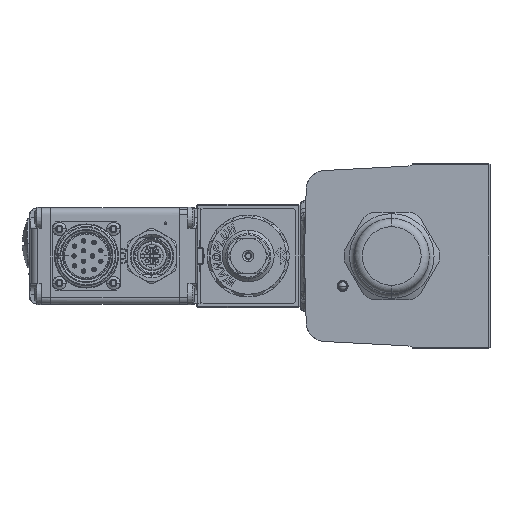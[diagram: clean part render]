
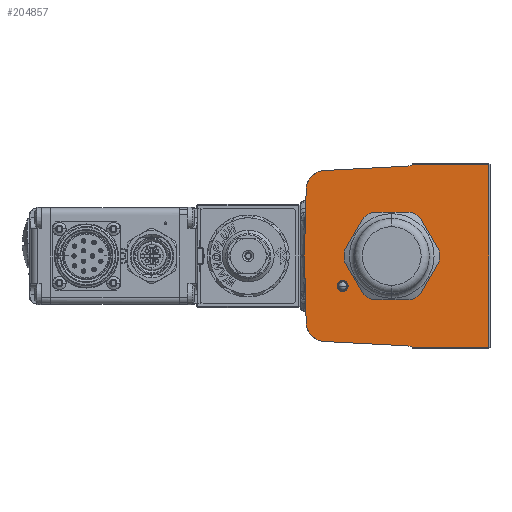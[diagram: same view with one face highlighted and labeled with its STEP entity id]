
A CAD part, left-side view. The second image highlights one B-rep face of the part: STEP entity #204857.
In plain terms, the highlighted planar face has unit normal (-1, 0, 0).
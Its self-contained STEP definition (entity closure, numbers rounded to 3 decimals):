
#920 = CARTESIAN_POINT ( 'NONE',  ( -46.6, -36., 33.5 ) ) ;
#3771 = EDGE_CURVE ( 'NONE', #241110, #25645, #243215, .T. ) ;
#15327 = DIRECTION ( 'NONE',  ( -1., 0., 0. ) ) ;
#15949 = LINE ( 'NONE', #82025, #205492 ) ;
#15950 = ORIENTED_EDGE ( 'NONE', *, *, #60151, .T. ) ;
#16456 = DIRECTION ( 'NONE',  ( 1., 0., 0. ) ) ;
#19468 = EDGE_CURVE ( 'NONE', #93158, #257988, #137167, .T. ) ;
#25645 = VERTEX_POINT ( 'NONE', #64846 ) ;
#27793 = EDGE_LOOP ( 'NONE', ( #101131, #297829 ) ) ;
#27955 = AXIS2_PLACEMENT_3D ( 'NONE', #210192, #67921, #234041 ) ;
#31849 = VECTOR ( 'NONE', #247483, 1000. ) ;
#33112 = DIRECTION ( 'NONE',  ( 0., -0.026, 1. ) ) ;
#39575 = CARTESIAN_POINT ( 'NONE',  ( -46.6, -35.5, -33.5 ) ) ;
#39941 = DIRECTION ( 'NONE',  ( 0., 0., 1. ) ) ;
#41017 = ORIENTED_EDGE ( 'NONE', *, *, #160914, .T. ) ;
#42352 = CIRCLE ( 'NONE', #182578, 7. ) ;
#43260 = VERTEX_POINT ( 'NONE', #294564 ) ;
#44833 = EDGE_CURVE ( 'NONE', #257988, #93158, #156019, .T. ) ;
#47888 = VERTEX_POINT ( 'NONE', #133490 ) ;
#55408 = VECTOR ( 'NONE', #285320, 1000. ) ;
#56462 = CARTESIAN_POINT ( 'NONE',  ( -46.6, 32., 0. ) ) ;
#57935 = CARTESIAN_POINT ( 'NONE',  ( -46.6, 18., -11. ) ) ;
#58994 = DIRECTION ( 'NONE',  ( -1., 0., 0. ) ) ;
#60151 = EDGE_CURVE ( 'NONE', #150413, #201062, #67443, .T. ) ;
#64846 = CARTESIAN_POINT ( 'NONE',  ( -46.6, -35.5, 33.5 ) ) ;
#67443 = CIRCLE ( 'NONE', #68752, 3. ) ;
#67614 = VERTEX_POINT ( 'NONE', #93246 ) ;
#67921 = DIRECTION ( 'NONE',  ( -1., 0., 0. ) ) ;
#68752 = AXIS2_PLACEMENT_3D ( 'NONE', #85104, #251087, #108959 ) ;
#68922 = AXIS2_PLACEMENT_3D ( 'NONE', #158795, #16456, #182708 ) ;
#71772 = CIRCLE ( 'NONE', #202662, 2. ) ;
#72656 = EDGE_CURVE ( 'NONE', #67614, #287305, #139380, .T. ) ;
#76760 = FACE_OUTER_BOUND ( 'NONE', #128044, .T. ) ;
#78422 = CARTESIAN_POINT ( 'NONE',  ( -46.6, 24.36, -24.347 ) ) ;
#78967 = DIRECTION ( 'NONE',  ( -1., 0., 0. ) ) ;
#80365 = ORIENTED_EDGE ( 'NONE', *, *, #204505, .T. ) ;
#81838 = DIRECTION ( 'NONE',  ( 0., 0., 1. ) ) ;
#82025 = CARTESIAN_POINT ( 'NONE',  ( -46.6, 1.706, 32.544 ) ) ;
#82502 = ORIENTED_EDGE ( 'NONE', *, *, #128700, .F. ) ;
#83306 = CARTESIAN_POINT ( 'NONE',  ( -46.6, 31.978, -0.837 ) ) ;
#84263 = CARTESIAN_POINT ( 'NONE',  ( -46.6, -7.444, 33.5 ) ) ;
#85104 = CARTESIAN_POINT ( 'NONE',  ( -46.6, -5.693, 35.936 ) ) ;
#90236 = ORIENTED_EDGE ( 'NONE', *, *, #213697, .T. ) ;
#90631 = DIRECTION ( 'NONE',  ( 0., -1., 0. ) ) ;
#93158 = VERTEX_POINT ( 'NONE', #119374 ) ;
#93246 = CARTESIAN_POINT ( 'NONE',  ( -46.6, -5.85, -32.94 ) ) ;
#93985 = EDGE_LOOP ( 'NONE', ( #306323, #82502 ) ) ;
#94695 = CARTESIAN_POINT ( 'NONE',  ( -46.6, 18., -13. ) ) ;
#94916 = VERTEX_POINT ( 'NONE', #294531 ) ;
#101131 = ORIENTED_EDGE ( 'NONE', *, *, #44833, .F. ) ;
#102027 = VECTOR ( 'NONE', #39941, 1000. ) ;
#102312 = DIRECTION ( 'NONE',  ( 0., 0., 1. ) ) ;
#104035 = CARTESIAN_POINT ( 'NONE',  ( -46.6, 24.726, -31.337 ) ) ;
#104878 = DIRECTION ( 'NONE',  ( -1., 0., 0. ) ) ;
#105363 = CARTESIAN_POINT ( 'NONE',  ( -46.6, 1.706, -32.544 ) ) ;
#108959 = DIRECTION ( 'NONE',  ( 0., 0., 1. ) ) ;
#109634 = EDGE_CURVE ( 'NONE', #47888, #201062, #15949, .T. ) ;
#110830 = VECTOR ( 'NONE', #225412, 1000. ) ;
#112918 = VERTEX_POINT ( 'NONE', #104035 ) ;
#113281 = EDGE_CURVE ( 'NONE', #25645, #150413, #181831, .T. ) ;
#114525 = EDGE_CURVE ( 'NONE', #287250, #187478, #181460, .T. ) ;
#118466 = AXIS2_PLACEMENT_3D ( 'NONE', #247034, #104878, #270861 ) ;
#119015 = LINE ( 'NONE', #199312, #167230 ) ;
#119374 = CARTESIAN_POINT ( 'NONE',  ( -46.6, 16., 0. ) ) ;
#128044 = EDGE_LOOP ( 'NONE', ( #259748, #80365, #263508, #156510, #15950, #133310, #41017, #128234, #173301, #174071, #90236 ) ) ;
#128234 = ORIENTED_EDGE ( 'NONE', *, *, #288984, .F. ) ;
#128700 = EDGE_CURVE ( 'NONE', #245021, #94916, #138350, .T. ) ;
#128755 = DIRECTION ( 'NONE',  ( 0., -0.999, 0.052 ) ) ;
#132505 = FACE_BOUND ( 'NONE', #93985, .T. ) ;
#133310 = ORIENTED_EDGE ( 'NONE', *, *, #109634, .F. ) ;
#133490 = CARTESIAN_POINT ( 'NONE',  ( -46.6, 24.726, 31.337 ) ) ;
#137167 = CIRCLE ( 'NONE', #180321, 16. ) ;
#137870 = EDGE_CURVE ( 'NONE', #94916, #245021, #71772, .T. ) ;
#138350 = CIRCLE ( 'NONE', #181409, 2. ) ;
#139380 = CIRCLE ( 'NONE', #68922, 3. ) ;
#140219 = CIRCLE ( 'NONE', #27955, 7. ) ;
#150086 = CARTESIAN_POINT ( 'NONE',  ( -46.6, -16., 0. ) ) ;
#150413 = VERTEX_POINT ( 'NONE', #84263 ) ;
#156019 = CIRCLE ( 'NONE', #156879, 16. ) ;
#156510 = ORIENTED_EDGE ( 'NONE', *, *, #113281, .T. ) ;
#156879 = AXIS2_PLACEMENT_3D ( 'NONE', #201226, #58994, #225022 ) ;
#157680 = CARTESIAN_POINT ( 'NONE',  ( -46.6, 18., -11. ) ) ;
#158512 = CARTESIAN_POINT ( 'NONE',  ( -46.6, -35.5, -34. ) ) ;
#158795 = CARTESIAN_POINT ( 'NONE',  ( -46.6, -5.693, -35.936 ) ) ;
#160914 = EDGE_CURVE ( 'NONE', #47888, #43260, #140219, .T. ) ;
#167230 = VECTOR ( 'NONE', #33112, 1000. ) ;
#170133 = LINE ( 'NONE', #232815, #296240 ) ;
#173301 = ORIENTED_EDGE ( 'NONE', *, *, #114525, .T. ) ;
#174071 = ORIENTED_EDGE ( 'NONE', *, *, #236318, .F. ) ;
#178994 = CARTESIAN_POINT ( 'NONE',  ( -46.6, -7.444, -33.5 ) ) ;
#180321 = AXIS2_PLACEMENT_3D ( 'NONE', #221131, #78967, #245037 ) ;
#181409 = AXIS2_PLACEMENT_3D ( 'NONE', #57935, #223965, #81838 ) ;
#181460 = LINE ( 'NONE', #83306, #110830 ) ;
#181573 = DIRECTION ( 'NONE',  ( 0., 0., 1. ) ) ;
#181831 = LINE ( 'NONE', #920, #55408 ) ;
#182578 = AXIS2_PLACEMENT_3D ( 'NONE', #78422, #244502, #102312 ) ;
#182708 = DIRECTION ( 'NONE',  ( 0., 0., 1. ) ) ;
#187478 = VERTEX_POINT ( 'NONE', #288952 ) ;
#199312 = CARTESIAN_POINT ( 'NONE',  ( -46.6, 31.978, 0.837 ) ) ;
#201062 = VERTEX_POINT ( 'NONE', #252350 ) ;
#201226 = CARTESIAN_POINT ( 'NONE',  ( -46.6, 0., 0. ) ) ;
#202662 = AXIS2_PLACEMENT_3D ( 'NONE', #157680, #15327, #181573 ) ;
#204505 = EDGE_CURVE ( 'NONE', #287305, #241110, #170133, .T. ) ;
#204857 = ADVANCED_FACE ( 'NONE', ( #132505, #76760, #258692 ), #293711, .T. ) ;
#205492 = VECTOR ( 'NONE', #128755, 1000. ) ;
#210192 = CARTESIAN_POINT ( 'NONE',  ( -46.6, 24.36, 24.347 ) ) ;
#213697 = EDGE_CURVE ( 'NONE', #112918, #67614, #276995, .T. ) ;
#221131 = CARTESIAN_POINT ( 'NONE',  ( -46.6, 0., 0. ) ) ;
#223965 = DIRECTION ( 'NONE',  ( -1., 0., 0. ) ) ;
#225022 = DIRECTION ( 'NONE',  ( 0., -1., 0. ) ) ;
#225412 = DIRECTION ( 'NONE',  ( 0., -0.026, -1. ) ) ;
#232815 = CARTESIAN_POINT ( 'NONE',  ( -46.6, -36., -33.5 ) ) ;
#234041 = DIRECTION ( 'NONE',  ( 0., 0., 1. ) ) ;
#236318 = EDGE_CURVE ( 'NONE', #112918, #187478, #42352, .T. ) ;
#241110 = VERTEX_POINT ( 'NONE', #39575 ) ;
#243215 = LINE ( 'NONE', #158512, #102027 ) ;
#244502 = DIRECTION ( 'NONE',  ( 1., 0., 0. ) ) ;
#245021 = VERTEX_POINT ( 'NONE', #94695 ) ;
#245037 = DIRECTION ( 'NONE',  ( 0., -1., 0. ) ) ;
#247034 = CARTESIAN_POINT ( 'NONE',  ( -46.6, -36., -34. ) ) ;
#247483 = DIRECTION ( 'NONE',  ( 0., -0.999, -0.052 ) ) ;
#251087 = DIRECTION ( 'NONE',  ( 1., 0., 0. ) ) ;
#252350 = CARTESIAN_POINT ( 'NONE',  ( -46.6, -5.85, 32.94 ) ) ;
#257988 = VERTEX_POINT ( 'NONE', #150086 ) ;
#258692 = FACE_BOUND ( 'NONE', #27793, .T. ) ;
#259748 = ORIENTED_EDGE ( 'NONE', *, *, #72656, .T. ) ;
#263508 = ORIENTED_EDGE ( 'NONE', *, *, #3771, .T. ) ;
#270861 = DIRECTION ( 'NONE',  ( 0., 0., 1. ) ) ;
#276995 = LINE ( 'NONE', #105363, #31849 ) ;
#285320 = DIRECTION ( 'NONE',  ( 0., 1., 0. ) ) ;
#287250 = VERTEX_POINT ( 'NONE', #56462 ) ;
#287305 = VERTEX_POINT ( 'NONE', #178994 ) ;
#288952 = CARTESIAN_POINT ( 'NONE',  ( -46.6, 31.358, -24.53 ) ) ;
#288984 = EDGE_CURVE ( 'NONE', #287250, #43260, #119015, .T. ) ;
#293711 = PLANE ( 'NONE',  #118466 ) ;
#294531 = CARTESIAN_POINT ( 'NONE',  ( -46.6, 18., -9. ) ) ;
#294564 = CARTESIAN_POINT ( 'NONE',  ( -46.6, 31.358, 24.53 ) ) ;
#296240 = VECTOR ( 'NONE', #90631, 1000. ) ;
#297829 = ORIENTED_EDGE ( 'NONE', *, *, #19468, .F. ) ;
#306323 = ORIENTED_EDGE ( 'NONE', *, *, #137870, .F. ) ;
